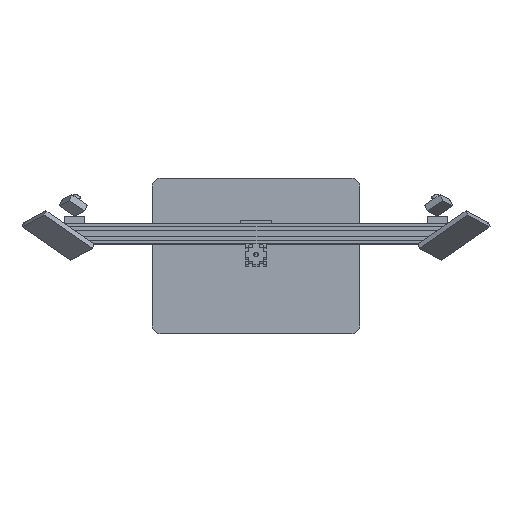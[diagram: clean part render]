
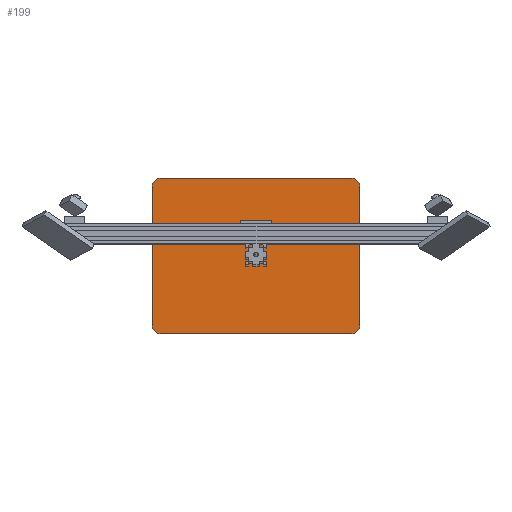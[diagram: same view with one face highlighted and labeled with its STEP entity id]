
A CAD part, top view. The second image highlights one B-rep face of the part: STEP entity #199.
In plain terms, the highlighted planar face has unit normal (0, 0, 1).
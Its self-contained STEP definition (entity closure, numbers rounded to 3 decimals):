
#83 = EDGE_CURVE('',#84,#86,#88,.T.);
#84 = VERTEX_POINT('',#85);
#85 = CARTESIAN_POINT('',(744.,-1085.,-708.));
#86 = VERTEX_POINT('',#87);
#87 = CARTESIAN_POINT('',(744.,-815.,-708.));
#88 = SURFACE_CURVE('',#89,(#93,#105),.PCURVE_S1.);
#89 = LINE('',#90,#91);
#90 = CARTESIAN_POINT('',(744.,-1100.,-708.));
#91 = VECTOR('',#92,1.);
#92 = DIRECTION('',(0.,1.,0.));
#93 = PCURVE('',#94,#99);
#94 = PLANE('',#95);
#95 = AXIS2_PLACEMENT_3D('',#96,#97,#98);
#96 = CARTESIAN_POINT('',(744.,-1100.,-720.));
#97 = DIRECTION('',(1.,0.,0.));
#98 = DIRECTION('',(0.,0.,1.));
#99 = DEFINITIONAL_REPRESENTATION('',(#100),#104);
#100 = LINE('',#101,#102);
#101 = CARTESIAN_POINT('',(12.,0.));
#102 = VECTOR('',#103,1.);
#103 = DIRECTION('',(0.,-1.));
#104 = ( GEOMETRIC_REPRESENTATION_CONTEXT(2) 
PARAMETRIC_REPRESENTATION_CONTEXT() REPRESENTATION_CONTEXT('2D SPACE',''
  ) );
#105 = PCURVE('',#106,#111);
#106 = PLANE('',#107);
#107 = AXIS2_PLACEMENT_3D('',#108,#109,#110);
#108 = CARTESIAN_POINT('',(744.,-1100.,-708.));
#109 = DIRECTION('',(0.,0.,1.));
#110 = DIRECTION('',(1.,0.,0.));
#111 = DEFINITIONAL_REPRESENTATION('',(#112),#116);
#112 = LINE('',#113,#114);
#113 = CARTESIAN_POINT('',(0.,0.));
#114 = VECTOR('',#115,1.);
#115 = DIRECTION('',(0.,1.));
#116 = ( GEOMETRIC_REPRESENTATION_CONTEXT(2) 
PARAMETRIC_REPRESENTATION_CONTEXT() REPRESENTATION_CONTEXT('2D SPACE',''
  ) );
#134 = CYLINDRICAL_SURFACE('',#135,15.);
#135 = AXIS2_PLACEMENT_3D('',#136,#137,#138);
#136 = CARTESIAN_POINT('',(759.,-1085.,-720.));
#137 = DIRECTION('',(0.,0.,1.));
#138 = DIRECTION('',(-1.,-0.,0.));
#188 = CYLINDRICAL_SURFACE('',#189,15.);
#189 = AXIS2_PLACEMENT_3D('',#190,#191,#192);
#190 = CARTESIAN_POINT('',(759.,-815.,-720.));
#191 = DIRECTION('',(0.,0.,1.));
#192 = DIRECTION('',(-1.,-0.,0.));
#199 = ADVANCED_FACE('',(#200),#106,.T.);
#200 = FACE_BOUND('',#201,.T.);
#201 = EDGE_LOOP('',(#202,#203,#227,#255,#288,#316,#345,#373));
#202 = ORIENTED_EDGE('',*,*,#83,.F.);
#203 = ORIENTED_EDGE('',*,*,#204,.T.);
#204 = EDGE_CURVE('',#84,#205,#207,.T.);
#205 = VERTEX_POINT('',#206);
#206 = CARTESIAN_POINT('',(759.,-1100.,-708.));
#207 = SURFACE_CURVE('',#208,(#213,#220),.PCURVE_S1.);
#208 = CIRCLE('',#209,15.);
#209 = AXIS2_PLACEMENT_3D('',#210,#211,#212);
#210 = CARTESIAN_POINT('',(759.,-1085.,-708.));
#211 = DIRECTION('',(0.,0.,1.));
#212 = DIRECTION('',(0.,-1.,0.));
#213 = PCURVE('',#106,#214);
#214 = DEFINITIONAL_REPRESENTATION('',(#215),#219);
#215 = CIRCLE('',#216,15.);
#216 = AXIS2_PLACEMENT_2D('',#217,#218);
#217 = CARTESIAN_POINT('',(15.,15.));
#218 = DIRECTION('',(0.,-1.));
#219 = ( GEOMETRIC_REPRESENTATION_CONTEXT(2) 
PARAMETRIC_REPRESENTATION_CONTEXT() REPRESENTATION_CONTEXT('2D SPACE',''
  ) );
#220 = PCURVE('',#134,#221);
#221 = DEFINITIONAL_REPRESENTATION('',(#222),#226);
#222 = LINE('',#223,#224);
#223 = CARTESIAN_POINT('',(-4.712,12.));
#224 = VECTOR('',#225,1.);
#225 = DIRECTION('',(1.,0.));
#226 = ( GEOMETRIC_REPRESENTATION_CONTEXT(2) 
PARAMETRIC_REPRESENTATION_CONTEXT() REPRESENTATION_CONTEXT('2D SPACE',''
  ) );
#227 = ORIENTED_EDGE('',*,*,#228,.T.);
#228 = EDGE_CURVE('',#205,#229,#231,.T.);
#229 = VERTEX_POINT('',#230);
#230 = CARTESIAN_POINT('',(1129.,-1100.,-708.));
#231 = SURFACE_CURVE('',#232,(#236,#243),.PCURVE_S1.);
#232 = LINE('',#233,#234);
#233 = CARTESIAN_POINT('',(744.,-1100.,-708.));
#234 = VECTOR('',#235,1.);
#235 = DIRECTION('',(1.,0.,0.));
#236 = PCURVE('',#106,#237);
#237 = DEFINITIONAL_REPRESENTATION('',(#238),#242);
#238 = LINE('',#239,#240);
#239 = CARTESIAN_POINT('',(0.,0.));
#240 = VECTOR('',#241,1.);
#241 = DIRECTION('',(1.,0.));
#242 = ( GEOMETRIC_REPRESENTATION_CONTEXT(2) 
PARAMETRIC_REPRESENTATION_CONTEXT() REPRESENTATION_CONTEXT('2D SPACE',''
  ) );
#243 = PCURVE('',#244,#249);
#244 = PLANE('',#245);
#245 = AXIS2_PLACEMENT_3D('',#246,#247,#248);
#246 = CARTESIAN_POINT('',(744.,-1100.,-720.));
#247 = DIRECTION('',(0.,1.,0.));
#248 = DIRECTION('',(0.,0.,1.));
#249 = DEFINITIONAL_REPRESENTATION('',(#250),#254);
#250 = LINE('',#251,#252);
#251 = CARTESIAN_POINT('',(12.,0.));
#252 = VECTOR('',#253,1.);
#253 = DIRECTION('',(0.,1.));
#254 = ( GEOMETRIC_REPRESENTATION_CONTEXT(2) 
PARAMETRIC_REPRESENTATION_CONTEXT() REPRESENTATION_CONTEXT('2D SPACE',''
  ) );
#255 = ORIENTED_EDGE('',*,*,#256,.F.);
#256 = EDGE_CURVE('',#257,#229,#259,.T.);
#257 = VERTEX_POINT('',#258);
#258 = CARTESIAN_POINT('',(1144.,-1085.,-708.));
#259 = SURFACE_CURVE('',#260,(#265,#276),.PCURVE_S1.);
#260 = CIRCLE('',#261,15.);
#261 = AXIS2_PLACEMENT_3D('',#262,#263,#264);
#262 = CARTESIAN_POINT('',(1129.,-1085.,-708.));
#263 = DIRECTION('',(-0.,-0.,-1.));
#264 = DIRECTION('',(0.,-1.,0.));
#265 = PCURVE('',#106,#266);
#266 = DEFINITIONAL_REPRESENTATION('',(#267),#275);
#267 = ( BOUNDED_CURVE() B_SPLINE_CURVE(2,(#268,#269,#270,#271,#272,#273
,#274),.UNSPECIFIED.,.T.,.F.) B_SPLINE_CURVE_WITH_KNOTS((1,2,2,2,2,1),(
    -2.094,0.,2.094,4.189,6.283,
8.378),.UNSPECIFIED.) CURVE() GEOMETRIC_REPRESENTATION_ITEM() 
RATIONAL_B_SPLINE_CURVE((1.,0.5,1.,0.5,1.,0.5,1.)) REPRESENTATION_ITEM(
  '') );
#268 = CARTESIAN_POINT('',(385.,0.));
#269 = CARTESIAN_POINT('',(359.019,0.));
#270 = CARTESIAN_POINT('',(372.01,22.5));
#271 = CARTESIAN_POINT('',(385.,45.));
#272 = CARTESIAN_POINT('',(397.99,22.5));
#273 = CARTESIAN_POINT('',(410.981,0.));
#274 = CARTESIAN_POINT('',(385.,0.));
#275 = ( GEOMETRIC_REPRESENTATION_CONTEXT(2) 
PARAMETRIC_REPRESENTATION_CONTEXT() REPRESENTATION_CONTEXT('2D SPACE',''
  ) );
#276 = PCURVE('',#277,#282);
#277 = CYLINDRICAL_SURFACE('',#278,15.);
#278 = AXIS2_PLACEMENT_3D('',#279,#280,#281);
#279 = CARTESIAN_POINT('',(1129.,-1085.,-720.));
#280 = DIRECTION('',(0.,0.,1.));
#281 = DIRECTION('',(1.,0.,-0.));
#282 = DEFINITIONAL_REPRESENTATION('',(#283),#287);
#283 = LINE('',#284,#285);
#284 = CARTESIAN_POINT('',(4.712,12.));
#285 = VECTOR('',#286,1.);
#286 = DIRECTION('',(-1.,0.));
#287 = ( GEOMETRIC_REPRESENTATION_CONTEXT(2) 
PARAMETRIC_REPRESENTATION_CONTEXT() REPRESENTATION_CONTEXT('2D SPACE',''
  ) );
#288 = ORIENTED_EDGE('',*,*,#289,.T.);
#289 = EDGE_CURVE('',#257,#290,#292,.T.);
#290 = VERTEX_POINT('',#291);
#291 = CARTESIAN_POINT('',(1144.,-815.,-708.));
#292 = SURFACE_CURVE('',#293,(#297,#304),.PCURVE_S1.);
#293 = LINE('',#294,#295);
#294 = CARTESIAN_POINT('',(1144.,-1100.,-708.));
#295 = VECTOR('',#296,1.);
#296 = DIRECTION('',(0.,1.,0.));
#297 = PCURVE('',#106,#298);
#298 = DEFINITIONAL_REPRESENTATION('',(#299),#303);
#299 = LINE('',#300,#301);
#300 = CARTESIAN_POINT('',(400.,0.));
#301 = VECTOR('',#302,1.);
#302 = DIRECTION('',(0.,1.));
#303 = ( GEOMETRIC_REPRESENTATION_CONTEXT(2) 
PARAMETRIC_REPRESENTATION_CONTEXT() REPRESENTATION_CONTEXT('2D SPACE',''
  ) );
#304 = PCURVE('',#305,#310);
#305 = PLANE('',#306);
#306 = AXIS2_PLACEMENT_3D('',#307,#308,#309);
#307 = CARTESIAN_POINT('',(1144.,-1100.,-720.));
#308 = DIRECTION('',(1.,0.,0.));
#309 = DIRECTION('',(0.,0.,1.));
#310 = DEFINITIONAL_REPRESENTATION('',(#311),#315);
#311 = LINE('',#312,#313);
#312 = CARTESIAN_POINT('',(12.,0.));
#313 = VECTOR('',#314,1.);
#314 = DIRECTION('',(0.,-1.));
#315 = ( GEOMETRIC_REPRESENTATION_CONTEXT(2) 
PARAMETRIC_REPRESENTATION_CONTEXT() REPRESENTATION_CONTEXT('2D SPACE',''
  ) );
#316 = ORIENTED_EDGE('',*,*,#317,.T.);
#317 = EDGE_CURVE('',#290,#318,#320,.T.);
#318 = VERTEX_POINT('',#319);
#319 = CARTESIAN_POINT('',(1129.,-800.,-708.));
#320 = SURFACE_CURVE('',#321,(#326,#333),.PCURVE_S1.);
#321 = CIRCLE('',#322,15.);
#322 = AXIS2_PLACEMENT_3D('',#323,#324,#325);
#323 = CARTESIAN_POINT('',(1129.,-815.,-708.));
#324 = DIRECTION('',(0.,0.,1.));
#325 = DIRECTION('',(0.,-1.,0.));
#326 = PCURVE('',#106,#327);
#327 = DEFINITIONAL_REPRESENTATION('',(#328),#332);
#328 = CIRCLE('',#329,15.);
#329 = AXIS2_PLACEMENT_2D('',#330,#331);
#330 = CARTESIAN_POINT('',(385.,285.));
#331 = DIRECTION('',(0.,-1.));
#332 = ( GEOMETRIC_REPRESENTATION_CONTEXT(2) 
PARAMETRIC_REPRESENTATION_CONTEXT() REPRESENTATION_CONTEXT('2D SPACE',''
  ) );
#333 = PCURVE('',#334,#339);
#334 = CYLINDRICAL_SURFACE('',#335,15.);
#335 = AXIS2_PLACEMENT_3D('',#336,#337,#338);
#336 = CARTESIAN_POINT('',(1129.,-815.,-720.));
#337 = DIRECTION('',(0.,0.,1.));
#338 = DIRECTION('',(1.,0.,-0.));
#339 = DEFINITIONAL_REPRESENTATION('',(#340),#344);
#340 = LINE('',#341,#342);
#341 = CARTESIAN_POINT('',(-1.571,12.));
#342 = VECTOR('',#343,1.);
#343 = DIRECTION('',(1.,0.));
#344 = ( GEOMETRIC_REPRESENTATION_CONTEXT(2) 
PARAMETRIC_REPRESENTATION_CONTEXT() REPRESENTATION_CONTEXT('2D SPACE',''
  ) );
#345 = ORIENTED_EDGE('',*,*,#346,.F.);
#346 = EDGE_CURVE('',#347,#318,#349,.T.);
#347 = VERTEX_POINT('',#348);
#348 = CARTESIAN_POINT('',(759.,-800.,-708.));
#349 = SURFACE_CURVE('',#350,(#354,#361),.PCURVE_S1.);
#350 = LINE('',#351,#352);
#351 = CARTESIAN_POINT('',(744.,-800.,-708.));
#352 = VECTOR('',#353,1.);
#353 = DIRECTION('',(1.,0.,0.));
#354 = PCURVE('',#106,#355);
#355 = DEFINITIONAL_REPRESENTATION('',(#356),#360);
#356 = LINE('',#357,#358);
#357 = CARTESIAN_POINT('',(0.,300.));
#358 = VECTOR('',#359,1.);
#359 = DIRECTION('',(1.,0.));
#360 = ( GEOMETRIC_REPRESENTATION_CONTEXT(2) 
PARAMETRIC_REPRESENTATION_CONTEXT() REPRESENTATION_CONTEXT('2D SPACE',''
  ) );
#361 = PCURVE('',#362,#367);
#362 = PLANE('',#363);
#363 = AXIS2_PLACEMENT_3D('',#364,#365,#366);
#364 = CARTESIAN_POINT('',(744.,-800.,-720.));
#365 = DIRECTION('',(0.,1.,0.));
#366 = DIRECTION('',(0.,0.,1.));
#367 = DEFINITIONAL_REPRESENTATION('',(#368),#372);
#368 = LINE('',#369,#370);
#369 = CARTESIAN_POINT('',(12.,0.));
#370 = VECTOR('',#371,1.);
#371 = DIRECTION('',(0.,1.));
#372 = ( GEOMETRIC_REPRESENTATION_CONTEXT(2) 
PARAMETRIC_REPRESENTATION_CONTEXT() REPRESENTATION_CONTEXT('2D SPACE',''
  ) );
#373 = ORIENTED_EDGE('',*,*,#374,.F.);
#374 = EDGE_CURVE('',#86,#347,#375,.T.);
#375 = SURFACE_CURVE('',#376,(#381,#392),.PCURVE_S1.);
#376 = CIRCLE('',#377,15.);
#377 = AXIS2_PLACEMENT_3D('',#378,#379,#380);
#378 = CARTESIAN_POINT('',(759.,-815.,-708.));
#379 = DIRECTION('',(-0.,-0.,-1.));
#380 = DIRECTION('',(0.,-1.,0.));
#381 = PCURVE('',#106,#382);
#382 = DEFINITIONAL_REPRESENTATION('',(#383),#391);
#383 = ( BOUNDED_CURVE() B_SPLINE_CURVE(2,(#384,#385,#386,#387,#388,#389
,#390),.UNSPECIFIED.,.T.,.F.) B_SPLINE_CURVE_WITH_KNOTS((1,2,2,2,2,1),(
    -2.094,0.,2.094,4.189,6.283,
8.378),.UNSPECIFIED.) CURVE() GEOMETRIC_REPRESENTATION_ITEM() 
RATIONAL_B_SPLINE_CURVE((1.,0.5,1.,0.5,1.,0.5,1.)) REPRESENTATION_ITEM(
  '') );
#384 = CARTESIAN_POINT('',(15.,270.));
#385 = CARTESIAN_POINT('',(-10.981,270.));
#386 = CARTESIAN_POINT('',(2.01,292.5));
#387 = CARTESIAN_POINT('',(15.,315.));
#388 = CARTESIAN_POINT('',(27.99,292.5));
#389 = CARTESIAN_POINT('',(40.981,270.));
#390 = CARTESIAN_POINT('',(15.,270.));
#391 = ( GEOMETRIC_REPRESENTATION_CONTEXT(2) 
PARAMETRIC_REPRESENTATION_CONTEXT() REPRESENTATION_CONTEXT('2D SPACE',''
  ) );
#392 = PCURVE('',#188,#393);
#393 = DEFINITIONAL_REPRESENTATION('',(#394),#398);
#394 = LINE('',#395,#396);
#395 = CARTESIAN_POINT('',(1.571,12.));
#396 = VECTOR('',#397,1.);
#397 = DIRECTION('',(-1.,0.));
#398 = ( GEOMETRIC_REPRESENTATION_CONTEXT(2) 
PARAMETRIC_REPRESENTATION_CONTEXT() REPRESENTATION_CONTEXT('2D SPACE',''
  ) );
